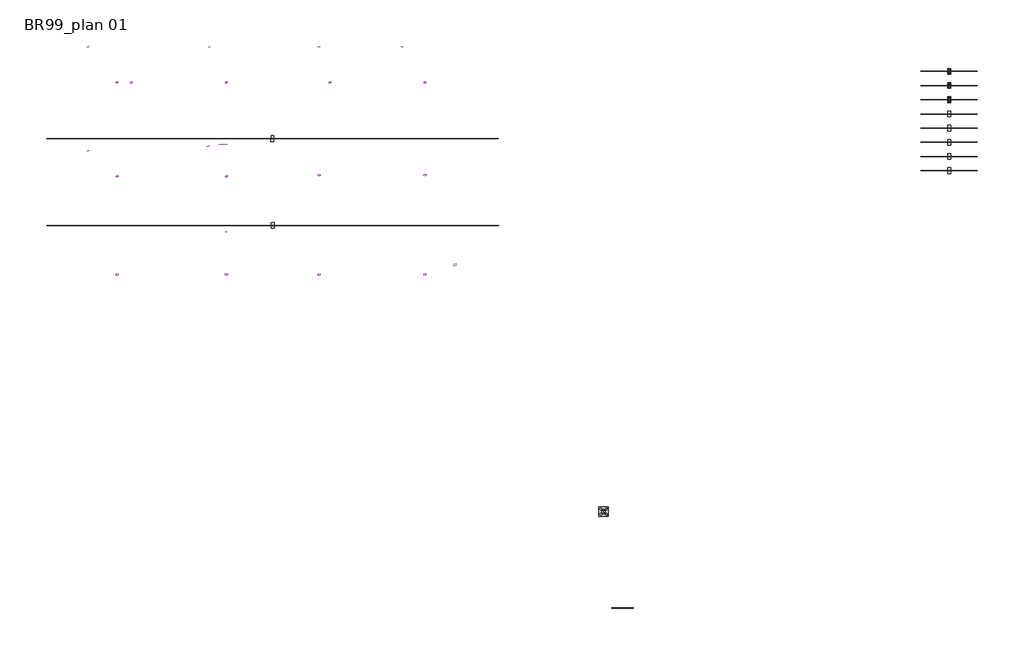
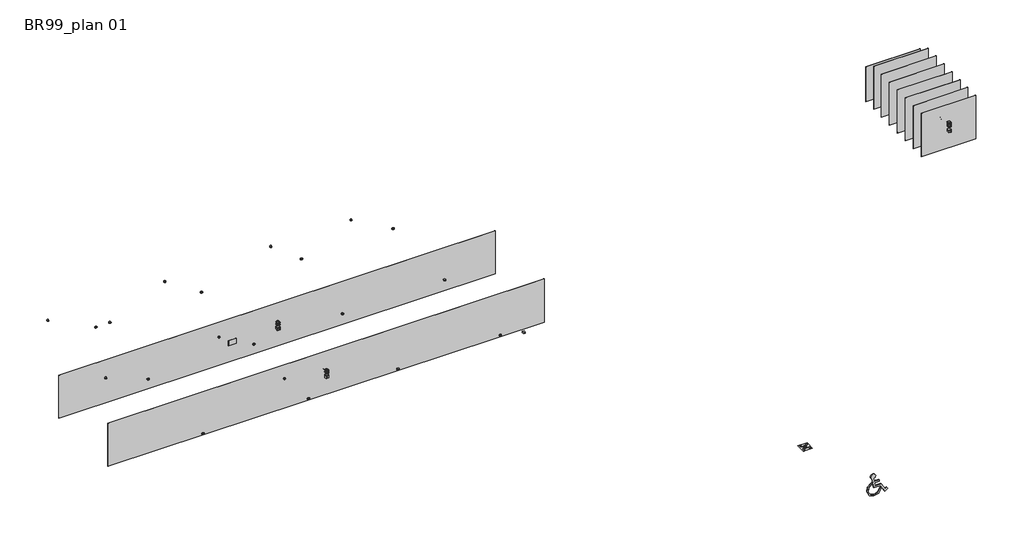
# One storey, incomplete: 21 alarms, 13 proxies.
"""IFC4 building model written with IfcOpenShell, lengths in millimetres."""

from ifc_helpers import new_model, si_unit, origin, place, context, project, spatial, transform, mapped, element, save
from components import alarm_50d67b49, alarm_2d409914, alarm_d4f96eb5, end_of_line_tul_end_of_line_tul_aeeab75c, specialty_equipment_be230158, specialty_equipment_eb012859, e15_dc09da35, e30_8e1c58af, e60_daea4a7d, ei120_53a60ad3, ei15_5a2ea401, ei30_2c21a536, ei30_90d5b6a1, ei60_0075d285, ei60_1caa0f9c, ei90_cadc9cc0, evac_chair_evac_chair_21751325

model = new_model("IFC4")

# Units and contexts
model_context = context("Model", 3, world=origin())
ifc_project = project(units=[si_unit("LENGTHUNIT", "METRE", prefix="MILLI")], contexts=[model_context])

# Site, building, storey
site = spatial("IfcSite", under=ifc_project)
building = spatial("IfcBuilding", under=site)
storey = spatial("IfcBuildingStorey", under=building, Name="BR99_plan 01", Elevation=0.0)

# Alarms
placement = place(None, origin())
alarm_shape = alarm_50d67b49(model_context)
element("IfcAlarm", 1, ObjectType="larmdon optiskt : Larmdon optiskt", at=placement, inside=storey, context=model_context, shape_type="MappedRepresentation", body=[
    mapped(alarm_shape, transform((17599.1815264, 19088.0074126, 0.0), x_axis=(1.0, 0.0, 0.0), y_axis=(0.0, 1.0, 0.0), z_axis=(0.0, 0.0, 1.0))),
])
element("IfcAlarm", 2, ObjectType="larmdon optiskt : Larmdon optiskt", at=placement, inside=storey, context=model_context, shape_type="MappedRepresentation", body=[
    mapped(alarm_shape, transform((11252.5, 18850.0, 0.0), x_axis=(1.0, 0.0, 0.0), y_axis=(0.0, 1.0, 0.0), z_axis=(0.0, 0.0, 1.0))),
])
element("IfcAlarm", 3, ObjectType="larmdon optiskt : Larmdon optiskt", at=placement, inside=storey, context=model_context, shape_type="MappedRepresentation", body=[
    mapped(alarm_shape, transform((11252.5, 24350.0, 0.0), x_axis=(1.0, 0.0, 0.0), y_axis=(0.0, 1.0, 0.0), z_axis=(0.0, 0.0, 1.0))),
])
alarm_2_shape = alarm_2d409914(model_context)
element("IfcAlarm", 4, ObjectType="Larmdon akustiskt : Larmdon akustiskt", at=placement, inside=storey, context=model_context, shape_type="MappedRepresentation", body=[
    mapped(alarm_2_shape, transform((27871.25, 24350.0, 0.0), x_axis=(1.0, 0.0, 0.0), y_axis=(0.0, 1.0, 0.0), z_axis=(0.0, 0.0, 1.0))),
])
element("IfcAlarm", 5, ObjectType="Larmdon sirén med blixt : Larmdon sirén med blixt", at=placement, inside=storey, context=model_context, shape_type="MappedRepresentation", body=[
    mapped(alarm_2_shape, transform((23470.0, 24350.0, 0.0), x_axis=(1.0, 0.0, 0.0), y_axis=(0.0, 1.0, 0.0), z_axis=(0.0, 0.0, 1.0))),
])
element("IfcAlarm", 6, ObjectType="Larmdon larmpelare : Larmdon larmpelare", at=placement, inside=storey, context=model_context, shape_type="MappedRepresentation", body=[
    mapped(alarm_2_shape, transform((17670.0, 24350.0, 0.0), x_axis=(1.0, 0.0, 0.0), y_axis=(0.0, 1.0, 0.0), z_axis=(0.0, 0.0, 1.0))),
])
element("IfcAlarm", 7, ObjectType="Larmdon larmpelare : Larmdon larmpelare", at=placement, inside=storey, context=model_context, shape_type="MappedRepresentation", body=[
    mapped(alarm_2_shape, transform((18572.1, 14562.5, 0.0), x_axis=(1.0, 0.0, 0.0), y_axis=(0.0, 1.0, 0.0), z_axis=(0.0, 0.0, 1.0))),
])
alarm_3_shape = alarm_d4f96eb5(model_context)
element("IfcAlarm", 8, ObjectType="Rökdetektor : Rökdetektor", at=placement, inside=storey, context=model_context, shape_type="MappedRepresentation", body=[
    mapped(alarm_3_shape, transform((12784.858335, 12250.0, 0.0), x_axis=(1.0, 0.0, 0.0), y_axis=(0.0, 1.0, 0.0), z_axis=(0.0, 0.0, 1.0))),
])
element("IfcAlarm", 9, ObjectType="Rökdetektor : Rökdetektor", at=placement, inside=storey, context=model_context, shape_type="MappedRepresentation", body=[
    mapped(alarm_3_shape, transform((12784.858335, 22421.1213797, 0.0), x_axis=(1.0, 0.0, 0.0), y_axis=(0.0, 1.0, 0.0), z_axis=(0.0, 0.0, 1.0))),
])
element("IfcAlarm", 10, ObjectType="Rökdetektor : Rökdetektor", at=placement, inside=storey, context=model_context, shape_type="MappedRepresentation", body=[
    mapped(alarm_3_shape, transform((23470.0, 17521.1702857, 0.0), x_axis=(1.0, 0.0, 0.0), y_axis=(0.0, 1.0, 0.0), z_axis=(0.0, 0.0, 1.0))),
])
element("IfcAlarm", 11, ObjectType="Rökdetektor : Rökdetektor", at=placement, inside=storey, context=model_context, shape_type="MappedRepresentation", body=[
    mapped(alarm_3_shape, transform((23470.0, 12250.0, 0.0), x_axis=(1.0, 0.0, 0.0), y_axis=(0.0, 1.0, 0.0), z_axis=(0.0, 0.0, 1.0))),
])
element("IfcAlarm", 12, ObjectType="Rökdetektor : Rökdetektor", at=placement, inside=storey, context=model_context, shape_type="MappedRepresentation", body=[
    mapped(alarm_3_shape, transform((29070.0, 12250.0, 0.0), x_axis=(1.0, 0.0, 0.0), y_axis=(0.0, 1.0, 0.0), z_axis=(0.0, 0.0, 1.0))),
])
element("IfcAlarm", 13, ObjectType="Rökdetektor : Rökdetektor", at=placement, inside=storey, context=model_context, shape_type="MappedRepresentation", body=[
    mapped(alarm_3_shape, transform((29070.0, 17521.1702857, 0.0), x_axis=(1.0, 0.0, 0.0), y_axis=(0.0, 1.0, 0.0), z_axis=(0.0, 0.0, 1.0))),
])
element("IfcAlarm", 14, ObjectType="Rökdetektor : Rökdetektor", at=placement, inside=storey, context=model_context, shape_type="MappedRepresentation", body=[
    mapped(alarm_3_shape, transform((12784.858335, 17450.0, 0.0), x_axis=(1.0, 0.0, 0.0), y_axis=(0.0, 1.0, 0.0), z_axis=(0.0, 0.0, 1.0))),
])
element("IfcAlarm", 15, ObjectType="Rökdetektor : Rökdetektor", at=placement, inside=storey, context=model_context, shape_type="MappedRepresentation", body=[
    mapped(alarm_3_shape, transform((18570.0, 22421.1213797, 0.0), x_axis=(1.0, 0.0, 0.0), y_axis=(0.0, 1.0, 0.0), z_axis=(0.0, 0.0, 1.0))),
])
element("IfcAlarm", 16, ObjectType="Rökdetektor : Rökdetektor", at=placement, inside=storey, context=model_context, shape_type="MappedRepresentation", body=[
    mapped(alarm_3_shape, transform((29070.0, 22421.1213797, 0.0), x_axis=(1.0, 0.0, 0.0), y_axis=(0.0, 1.0, 0.0), z_axis=(0.0, 0.0, 1.0))),
])
element("IfcAlarm", 17, ObjectType="Rökdetektor : Rökdetektor", at=placement, inside=storey, context=model_context, shape_type="MappedRepresentation", body=[
    mapped(alarm_3_shape, transform((24052.5, 22421.1213797, 0.0), x_axis=(1.0, 0.0, 0.0), y_axis=(0.0, 1.0, 0.0), z_axis=(0.0, 0.0, 1.0))),
])
element("IfcAlarm", 18, ObjectType="Rökdetektor : Rökdetektor", at=placement, inside=storey, context=model_context, shape_type="MappedRepresentation", body=[
    mapped(alarm_3_shape, transform((18570.0, 17450.0, 0.0), x_axis=(1.0, 0.0, 0.0), y_axis=(0.0, 1.0, 0.0), z_axis=(0.0, 0.0, 1.0))),
])
element("IfcAlarm", 19, ObjectType="Rökdetektor : Rökdetektor", at=placement, inside=storey, context=model_context, shape_type="MappedRepresentation", body=[
    mapped(alarm_3_shape, transform((18570.0, 12250.0, 0.0), x_axis=(1.0, 0.0, 0.0), y_axis=(0.0, 1.0, 0.0), z_axis=(0.0, 0.0, 1.0))),
])
element("IfcAlarm", 20, ObjectType="Rökdetektor dold : Rökdetektor dold", at=placement, inside=storey, context=model_context, shape_type="MappedRepresentation", body=[
    mapped(alarm_3_shape, transform((13552.5, 22421.1213797, 0.0), x_axis=(1.0, 0.0, 0.0), y_axis=(0.0, 1.0, 0.0), z_axis=(0.0, 0.0, 1.0))),
])
end_of_line_tul_end_of_line_tul_shape = end_of_line_tul_end_of_line_tul_aeeab75c(model_context)
element("IfcAlarm", 21, ObjectType="End of Line TUL : End of Line TUL", at=placement, inside=storey, context=model_context, shape_type="MappedRepresentation", body=[
    mapped(end_of_line_tul_end_of_line_tul_shape, transform((30670.0, 12772.3575669, 0.0), x_axis=(1.0, 0.0, 0.0), y_axis=(0.0, 1.0, 0.0), z_axis=(0.0, 0.0, 1.0))),
])

# Proxies
specialty_equipment_shape = specialty_equipment_be230158(model_context)
element("IfcBuildingElementProxy", 22, Name="Utrymningsplan : Utrymningsplan", ObjectType="Utrymningsplan : Utrymningsplan", at=placement, inside=storey, context=model_context, shape_type="MappedRepresentation", body=[
    mapped(specialty_equipment_shape, transform((18373.4382824, 19150.0, 0.0), x_axis=(1.0, 0.0, 0.0), y_axis=(0.0, 1.0, 0.0), z_axis=(0.0, 0.0, 1.0))),
])
specialty_equipment_2_shape = specialty_equipment_eb012859(model_context)
element("IfcBuildingElementProxy", 23, Name="Återsamlingsplats : Återsamlingsplats", ObjectType="Återsamlingsplats : Återsamlingsplats", at=placement, inside=storey, context=model_context, shape_type="MappedRepresentation", body=[
    mapped(specialty_equipment_2_shape, transform((38526.25, -302.5, 0.0), x_axis=(1.0, 0.0, 0.0), y_axis=(0.0, 1.0, 0.0), z_axis=(0.0, 0.0, 1.0))),
])
e15_shape = e15_dc09da35(model_context)
element("IfcBuildingElementProxy", 24, Name="Fire_FireCompartmentationE : E15", ObjectType="Fire_FireCompartmentationE : E15", at=placement, inside=storey, context=model_context, shape_type="MappedRepresentation", body=[
    mapped(e15_shape, transform((55302.5, 23010.6348594, 0.0), x_axis=(1.0, 0.0, 0.0), y_axis=(0.0, 1.0, 0.0), z_axis=(0.0, 0.0, 1.0))),
])
e30_shape = e30_8e1c58af(model_context)
element("IfcBuildingElementProxy", 25, Name="Fire_FireCompartmentationE : E30", ObjectType="Fire_FireCompartmentationE : E30", at=placement, inside=storey, context=model_context, shape_type="MappedRepresentation", body=[
    mapped(e30_shape, transform((55302.5, 22260.0, 0.0), x_axis=(1.0, 0.0, 0.0), y_axis=(0.0, 1.0, 0.0), z_axis=(0.0, 0.0, 1.0))),
])
e60_shape = e60_daea4a7d(model_context)
element("IfcBuildingElementProxy", 26, Name="Fire_FireCompartmentationE : E60", ObjectType="Fire_FireCompartmentationE : E60", at=placement, inside=storey, context=model_context, shape_type="MappedRepresentation", body=[
    mapped(e60_shape, transform((55302.5, 21510.0, 0.0), x_axis=(1.0, 0.0, 0.0), y_axis=(0.0, 1.0, 0.0), z_axis=(0.0, 0.0, 1.0))),
])
ei120_shape = ei120_53a60ad3(model_context)
element("IfcBuildingElementProxy", 27, Name="Fire_FireCompartmentationEI : EI120", ObjectType="Fire_FireCompartmentationEI : EI120", at=placement, inside=storey, context=model_context, shape_type="MappedRepresentation", body=[
    mapped(ei120_shape, transform((55302.5, 17750.0, 0.0), x_axis=(1.0, 0.0, 0.0), y_axis=(0.0, 1.0, 0.0), z_axis=(0.0, 0.0, 1.0))),
])
ei15_shape = ei15_5a2ea401(model_context)
element("IfcBuildingElementProxy", 28, Name="Fire_FireCompartmentationEI : EI15", ObjectType="Fire_FireCompartmentationEI : EI15", at=placement, inside=storey, context=model_context, shape_type="MappedRepresentation", body=[
    mapped(ei15_shape, transform((55302.5, 20750.0, 0.0), x_axis=(1.0, 0.0, 0.0), y_axis=(0.0, 1.0, 0.0), z_axis=(0.0, 0.0, 1.0))),
])
ei30_shape = ei30_2c21a536(model_context)
element("IfcBuildingElementProxy", 29, Name="Fire_FireCompartmentationEI : EI30", ObjectType="Fire_FireCompartmentationEI : EI30", at=placement, inside=storey, context=model_context, shape_type="MappedRepresentation", body=[
    mapped(ei30_shape, transform((55302.5, 20000.0, 0.0), x_axis=(1.0, 0.0, 0.0), y_axis=(0.0, 1.0, 0.0), z_axis=(0.0, 0.0, 1.0))),
])
ei30_2_shape = ei30_90d5b6a1(model_context)
element("IfcBuildingElementProxy", 30, Name="Fire_FireCompartmentationEI : EI30", ObjectType="Fire_FireCompartmentationEI : EI30", at=placement, inside=storey, context=model_context, shape_type="MappedRepresentation", body=[
    mapped(ei30_2_shape, transform((9052.5, 19450.0, 0.0), x_axis=(1.0, 0.0, 0.0), y_axis=(0.0, 1.0, 0.0), z_axis=(0.0, 0.0, 1.0))),
])
ei60_shape = ei60_0075d285(model_context)
element("IfcBuildingElementProxy", 31, Name="Fire_FireCompartmentationEI : EI60", ObjectType="Fire_FireCompartmentationEI : EI60", at=placement, inside=storey, context=model_context, shape_type="MappedRepresentation", body=[
    mapped(ei60_shape, transform((9070.0, 14850.0, 0.0), x_axis=(1.0, 0.0, 0.0), y_axis=(0.0, 1.0, 0.0), z_axis=(0.0, 0.0, 1.0))),
])
ei60_2_shape = ei60_1caa0f9c(model_context)
element("IfcBuildingElementProxy", 32, Name="Fire_FireCompartmentationEI : EI60", ObjectType="Fire_FireCompartmentationEI : EI60", at=placement, inside=storey, context=model_context, shape_type="MappedRepresentation", body=[
    mapped(ei60_2_shape, transform((55302.5, 19250.0, 0.0), x_axis=(1.0, 0.0, 0.0), y_axis=(0.0, 1.0, 0.0), z_axis=(0.0, 0.0, 1.0))),
])
ei90_shape = ei90_cadc9cc0(model_context)
element("IfcBuildingElementProxy", 33, Name="Fire_FireCompartmentationEI : EI90", ObjectType="Fire_FireCompartmentationEI : EI90", at=placement, inside=storey, context=model_context, shape_type="MappedRepresentation", body=[
    mapped(ei90_shape, transform((55302.5, 18500.0, 0.0), x_axis=(1.0, 0.0, 0.0), y_axis=(0.0, 1.0, 0.0), z_axis=(0.0, 0.0, 1.0))),
])
evac_chair_evac_chair_shape = evac_chair_evac_chair_21751325(model_context)
element("IfcBuildingElementProxy", 34, Name="Evac chair : Evac chair", ObjectType="Evac chair : Evac chair", at=placement, inside=storey, context=model_context, shape_type="MappedRepresentation", body=[
    mapped(evac_chair_evac_chair_shape, transform((39526.25, -5382.5, 0.0), x_axis=(1.0, 0.0, 0.0), y_axis=(0.0, 1.0, 0.0), z_axis=(0.0, 0.0, 1.0))),
])

save(model, "model.ifc")
